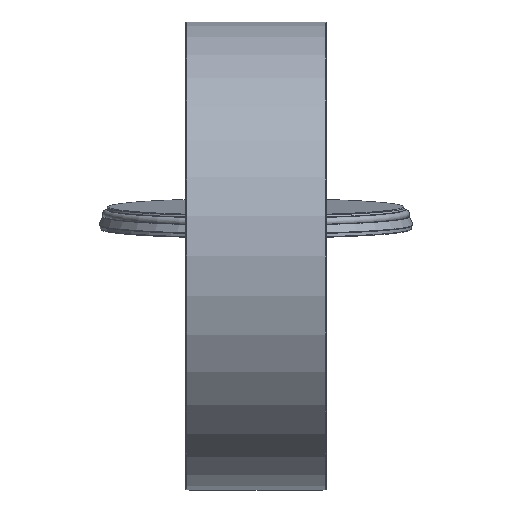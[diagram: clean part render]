
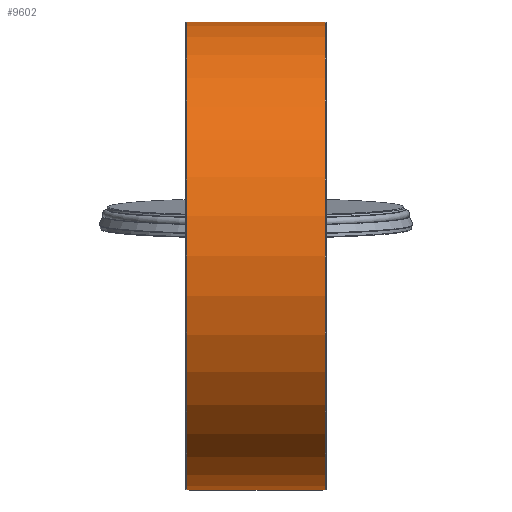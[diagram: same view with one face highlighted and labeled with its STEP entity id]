
A CAD part, left-side view. The second image highlights one B-rep face of the part: STEP entity #9602.
In plain terms, the highlighted cylindrical face has radius 150 mm (diameter 300 mm), a full revolution.
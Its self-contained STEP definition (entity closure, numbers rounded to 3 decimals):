
#5483=LINE('',#34586,#6728);
#5484=LINE('',#34591,#6729);
#5485=LINE('',#34595,#6730);
#5486=LINE('',#34599,#6731);
#5487=LINE('',#34602,#6732);
#5488=LINE('',#34607,#6733);
#5489=LINE('',#34610,#6734);
#5490=LINE('',#34615,#6735);
#5491=LINE('',#34619,#6736);
#5492=LINE('',#34623,#6737);
#6728=VECTOR('',#27791,1.);
#6729=VECTOR('',#27794,1.);
#6730=VECTOR('',#27797,1.);
#6731=VECTOR('',#27800,1.);
#6732=VECTOR('',#27803,1.);
#6733=VECTOR('',#27806,1.);
#6734=VECTOR('',#27809,1.);
#6735=VECTOR('',#27812,1.);
#6736=VECTOR('',#27815,1.);
#6737=VECTOR('',#27818,1.);
#7539=CYLINDRICAL_SURFACE('',#23973,150.);
#8319=FACE_BOUND('',#12357,.T.);
#8320=FACE_BOUND('',#12358,.T.);
#8321=FACE_BOUND('',#12359,.T.);
#9602=ADVANCED_FACE('',(#8319,#8320,#8321),#7539,.T.);
#12357=EDGE_LOOP('',(#15695,#15696,#15697,#15698,#15699,#15700,#15701,#15702));
#12358=EDGE_LOOP('',(#15703,#15704,#15705,#15706));
#12359=EDGE_LOOP('',(#15707,#15708,#15709,#15710,#15711,#15712,#15713,#15714));
#15695=ORIENTED_EDGE('',*,*,#20924,.F.);
#15696=ORIENTED_EDGE('',*,*,#20925,.T.);
#15697=ORIENTED_EDGE('',*,*,#20926,.T.);
#15698=ORIENTED_EDGE('',*,*,#20927,.T.);
#15699=ORIENTED_EDGE('',*,*,#20928,.F.);
#15700=ORIENTED_EDGE('',*,*,#20929,.T.);
#15701=ORIENTED_EDGE('',*,*,#20930,.T.);
#15702=ORIENTED_EDGE('',*,*,#20931,.T.);
#15703=ORIENTED_EDGE('',*,*,#20932,.T.);
#15704=ORIENTED_EDGE('',*,*,#20933,.T.);
#15705=ORIENTED_EDGE('',*,*,#20934,.T.);
#15706=ORIENTED_EDGE('',*,*,#20935,.T.);
#15707=ORIENTED_EDGE('',*,*,#20936,.F.);
#15708=ORIENTED_EDGE('',*,*,#20937,.T.);
#15709=ORIENTED_EDGE('',*,*,#20938,.T.);
#15710=ORIENTED_EDGE('',*,*,#20939,.F.);
#15711=ORIENTED_EDGE('',*,*,#20940,.F.);
#15712=ORIENTED_EDGE('',*,*,#20941,.F.);
#15713=ORIENTED_EDGE('',*,*,#20942,.T.);
#15714=ORIENTED_EDGE('',*,*,#20943,.F.);
#18834=VERTEX_POINT('',#34587);
#18835=VERTEX_POINT('',#34588);
#18836=VERTEX_POINT('',#34590);
#18837=VERTEX_POINT('',#34592);
#18838=VERTEX_POINT('',#34594);
#18839=VERTEX_POINT('',#34596);
#18840=VERTEX_POINT('',#34598);
#18841=VERTEX_POINT('',#34600);
#18842=VERTEX_POINT('',#34603);
#18843=VERTEX_POINT('',#34604);
#18844=VERTEX_POINT('',#34606);
#18845=VERTEX_POINT('',#34608);
#18846=VERTEX_POINT('',#34611);
#18847=VERTEX_POINT('',#34612);
#18848=VERTEX_POINT('',#34614);
#18849=VERTEX_POINT('',#34616);
#18850=VERTEX_POINT('',#34618);
#18851=VERTEX_POINT('',#34620);
#18852=VERTEX_POINT('',#34622);
#18853=VERTEX_POINT('',#34624);
#20924=EDGE_CURVE('',#18834,#18835,#5483,.T.);
#20925=EDGE_CURVE('',#18834,#18836,#22455,.T.);
#20926=EDGE_CURVE('',#18836,#18837,#5484,.T.);
#20927=EDGE_CURVE('',#18837,#18838,#22456,.T.);
#20928=EDGE_CURVE('',#18839,#18838,#5485,.T.);
#20929=EDGE_CURVE('',#18839,#18840,#22457,.T.);
#20930=EDGE_CURVE('',#18840,#18841,#5486,.T.);
#20931=EDGE_CURVE('',#18841,#18835,#22458,.T.);
#20932=EDGE_CURVE('',#18842,#18843,#5487,.T.);
#20933=EDGE_CURVE('',#18843,#18844,#22459,.T.);
#20934=EDGE_CURVE('',#18844,#18845,#5488,.T.);
#20935=EDGE_CURVE('',#18845,#18842,#22460,.T.);
#20936=EDGE_CURVE('',#18846,#18847,#5489,.T.);
#20937=EDGE_CURVE('',#18846,#18848,#22461,.T.);
#20938=EDGE_CURVE('',#18848,#18849,#5490,.T.);
#20939=EDGE_CURVE('',#18850,#18849,#22462,.T.);
#20940=EDGE_CURVE('',#18851,#18850,#5491,.T.);
#20941=EDGE_CURVE('',#18852,#18851,#22463,.T.);
#20942=EDGE_CURVE('',#18852,#18853,#5492,.T.);
#20943=EDGE_CURVE('',#18847,#18853,#22464,.T.);
#22455=CIRCLE('',#23963,150.);
#22456=CIRCLE('',#23964,150.);
#22457=CIRCLE('',#23965,150.);
#22458=CIRCLE('',#23966,150.);
#22459=CIRCLE('',#23967,150.);
#22460=CIRCLE('',#23968,150.);
#22461=CIRCLE('',#23969,150.);
#22462=CIRCLE('',#23970,150.);
#22463=CIRCLE('',#23971,150.);
#22464=CIRCLE('',#23972,150.);
#23963=AXIS2_PLACEMENT_3D('',#34589,#27792,#27793);
#23964=AXIS2_PLACEMENT_3D('',#34593,#27795,#27796);
#23965=AXIS2_PLACEMENT_3D('',#34597,#27798,#27799);
#23966=AXIS2_PLACEMENT_3D('',#34601,#27801,#27802);
#23967=AXIS2_PLACEMENT_3D('',#34605,#27804,#27805);
#23968=AXIS2_PLACEMENT_3D('',#34609,#27807,#27808);
#23969=AXIS2_PLACEMENT_3D('',#34613,#27810,#27811);
#23970=AXIS2_PLACEMENT_3D('',#34617,#27813,#27814);
#23971=AXIS2_PLACEMENT_3D('',#34621,#27816,#27817);
#23972=AXIS2_PLACEMENT_3D('',#34625,#27819,#27820);
#23973=AXIS2_PLACEMENT_3D('',#34626,#27821,#27822);
#27791=DIRECTION('',(1.,0.,0.));
#27792=DIRECTION('',(-1.,0.,0.));
#27793=DIRECTION('',(0.,0.,1.));
#27794=DIRECTION('',(1.,0.,0.));
#27795=DIRECTION('',(-1.,0.,0.));
#27796=DIRECTION('',(0.,0.,1.));
#27797=DIRECTION('',(1.,0.,0.));
#27798=DIRECTION('',(-1.,0.,0.));
#27799=DIRECTION('',(0.,0.,1.));
#27800=DIRECTION('',(1.,0.,0.));
#27801=DIRECTION('',(-1.,0.,0.));
#27802=DIRECTION('',(0.,0.,1.));
#27803=DIRECTION('',(1.,0.,0.));
#27804=DIRECTION('',(1.,0.,0.));
#27805=DIRECTION('',(0.,1.,0.));
#27806=DIRECTION('',(-1.,0.,0.));
#27807=DIRECTION('',(-1.,0.,0.));
#27808=DIRECTION('',(0.,-1.,0.));
#27809=DIRECTION('',(-1.,0.,0.));
#27810=DIRECTION('',(1.,0.,0.));
#27811=DIRECTION('',(0.,0.,1.));
#27812=DIRECTION('',(-1.,0.,0.));
#27813=DIRECTION('',(-1.,0.,0.));
#27814=DIRECTION('',(0.,0.,1.));
#27815=DIRECTION('',(-1.,0.,0.));
#27816=DIRECTION('',(-1.,0.,0.));
#27817=DIRECTION('',(0.,0.,1.));
#27818=DIRECTION('',(-1.,0.,0.));
#27819=DIRECTION('',(-1.,0.,0.));
#27820=DIRECTION('',(0.,0.,1.));
#27821=DIRECTION('',(-1.,0.,0.));
#27822=DIRECTION('',(0.,0.,1.));
#34586=CARTESIAN_POINT('',(87.5,3.,-149.97));
#34587=CARTESIAN_POINT('',(87.5,3.,-149.97));
#34588=CARTESIAN_POINT('',(89.5,3.,-149.97));
#34589=CARTESIAN_POINT('',(87.5,0.,0.));
#34590=CARTESIAN_POINT('',(87.5,-3.,-149.97));
#34591=CARTESIAN_POINT('',(87.5,-3.,-149.97));
#34592=CARTESIAN_POINT('',(89.5,-3.,-149.97));
#34593=CARTESIAN_POINT('',(89.5,0.,0.));
#34594=CARTESIAN_POINT('',(89.5,-3.,149.97));
#34595=CARTESIAN_POINT('',(87.5,-3.,149.97));
#34596=CARTESIAN_POINT('',(87.5,-3.,149.97));
#34597=CARTESIAN_POINT('',(87.5,0.,0.));
#34598=CARTESIAN_POINT('',(87.5,3.,149.97));
#34599=CARTESIAN_POINT('',(87.5,3.,149.97));
#34600=CARTESIAN_POINT('',(89.5,3.,149.97));
#34601=CARTESIAN_POINT('',(89.5,0.,0.));
#34602=CARTESIAN_POINT('',(0.,132.5,-70.312));
#34603=CARTESIAN_POINT('',(13.963,132.5,-70.312));
#34604=CARTESIAN_POINT('',(76.038,132.5,-70.312));
#34605=CARTESIAN_POINT('',(76.038,0.,0.));
#34606=CARTESIAN_POINT('',(76.038,132.5,70.312));
#34607=CARTESIAN_POINT('',(0.,132.5,70.312));
#34608=CARTESIAN_POINT('',(13.963,132.5,70.312));
#34609=CARTESIAN_POINT('',(13.963,0.,0.));
#34610=CARTESIAN_POINT('',(2.5,-3.,-149.97));
#34611=CARTESIAN_POINT('',(2.5,-3.,-149.97));
#34612=CARTESIAN_POINT('',(0.5,-3.,-149.97));
#34613=CARTESIAN_POINT('',(2.5,0.,0.));
#34614=CARTESIAN_POINT('',(2.5,3.,-149.97));
#34615=CARTESIAN_POINT('',(2.5,3.,-149.97));
#34616=CARTESIAN_POINT('',(0.5,3.,-149.97));
#34617=CARTESIAN_POINT('',(0.5,0.,0.));
#34618=CARTESIAN_POINT('',(0.5,3.,149.97));
#34619=CARTESIAN_POINT('',(2.5,3.,149.97));
#34620=CARTESIAN_POINT('',(2.5,3.,149.97));
#34621=CARTESIAN_POINT('',(2.5,0.,0.));
#34622=CARTESIAN_POINT('',(2.5,-3.,149.97));
#34623=CARTESIAN_POINT('',(2.5,-3.,149.97));
#34624=CARTESIAN_POINT('',(0.5,-3.,149.97));
#34625=CARTESIAN_POINT('',(0.5,0.,0.));
#34626=CARTESIAN_POINT('',(0.,0.,0.));
